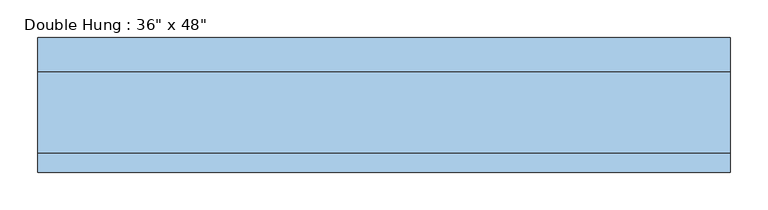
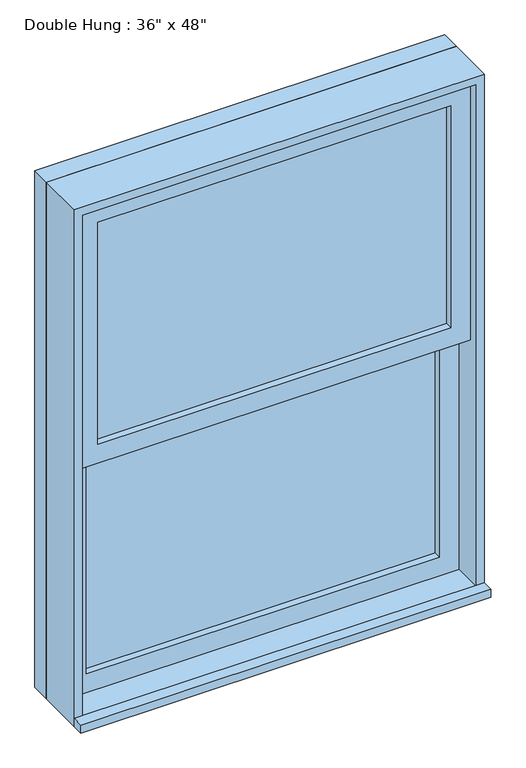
"""IFC4 building model written with IfcOpenShell, lengths in millimetres: window geometry."""

from ifc_helpers import new_model, si_unit, frame, origin, place, context, project, spatial, polyline, outline, extrude, source, transform, mapped, element, save


def window_cbc6d26e(model_context):
    return source(origin(), model_context, "Body", "SweptSolid", [
        extrude(outline(polyline([(-393.7, 3.175), (-393.7, 15.875), (393.7, 15.875), (393.7, 3.175), (-393.7, 3.175)])), frame((0.0, 0.0, 977.9), z_axis=(0.0, 0.0, 1.0), x_axis=(1.0, 0.0, 0.0)), (0.0, 0.0, 1.0), 523.875),
        extrude(outline(polyline([(1546.225, -438.15), (933.45, -438.15), (933.45, 438.15), (1546.225, 438.15), (1546.225, -438.15)]), holes=[polyline([(1501.775, -393.7), (1501.775, 393.7), (977.9, 393.7), (977.9, -393.7), (1501.775, -393.7)])]), frame((0.0, -12.7, 0.0), z_axis=(0.0, 1.0, 0.0), x_axis=(0.0, 0.0, 1.0)), (0.0, 0.0, 1.0), 44.45),
        extrude(outline(polyline([(-457.2, -101.6), (-457.2, -76.2), (457.2, -76.2), (457.2, -101.6), (-457.2, -101.6)])), frame((0.0, 0.0, 914.4), z_axis=(0.0, 0.0, 1.0), x_axis=(1.0, 0.0, 0.0)), (0.0, 0.0, 1.0), 19.05),
        extrude(outline(polyline([(393.7, -28.575), (393.7, -41.275), (-393.7, -41.275), (-393.7, -28.575), (393.7, -28.575)])), frame((0.0, 0.0, 1546.225), z_axis=(0.0, 0.0, 1.0), x_axis=(1.0, 0.0, 0.0)), (0.0, 0.0, 1.0), 523.875),
        extrude(outline(polyline([(2114.55, -438.15), (1501.775, -438.15), (1501.775, 438.15), (2114.55, 438.15), (2114.55, -438.15)]), holes=[polyline([(2070.1, -393.7), (2070.1, 393.7), (1546.225, 393.7), (1546.225, -393.7), (2070.1, -393.7)])]), frame((0.0, -57.15, 0.0), z_axis=(0.0, 1.0, 0.0), x_axis=(0.0, 0.0, 1.0)), (0.0, 0.0, 1.0), 44.45),
        extrude(outline(polyline([(2133.6, -457.2), (914.4, -457.2), (914.4, 457.2), (2133.6, 457.2), (2133.6, -457.2)]), holes=[polyline([(2101.85, -425.45), (2101.85, 425.45), (946.15, 425.45), (946.15, -425.45), (2101.85, -425.45)])]), frame((0.0, 31.75, 0.0), z_axis=(0.0, 1.0, 0.0), x_axis=(0.0, 0.0, 1.0)), (0.0, 0.0, 1.0), 44.45),
        extrude(outline(polyline([(2133.6, 457.2), (2133.6, -457.2), (914.4, -457.2), (914.4, 457.2), (2133.6, 457.2)]), holes=[polyline([(2114.55, 438.15), (933.45, 438.15), (933.45, -438.15), (2114.55, -438.15), (2114.55, 438.15)])]), frame((0.0, -76.2, 0.0), z_axis=(0.0, 1.0, 0.0), x_axis=(0.0, 0.0, 1.0)), (0.0, 0.0, 1.0), 107.95),
    ])


if __name__ == "__main__":
    model = new_model("IFC4")
    model_context = context("Model", 3, world=origin())
    ifc_project = project(units=[si_unit("LENGTHUNIT", "METRE", prefix="MILLI")], contexts=[model_context])
    site = spatial("IfcSite", under=ifc_project)
    building = spatial("IfcBuilding", under=site)
    placement = place(None, origin())
    window_shape = window_cbc6d26e(model_context)
    element("IfcWindow", 1, ObjectType="Double Hung : 36\" x 48\"", at=placement, inside=building, context=model_context, shape_type="MappedRepresentation", body=[
        mapped(window_shape, transform((0.0, 0.0, 0.0), x_axis=(1.0, 0.0, 0.0), y_axis=(0.0, 1.0, 0.0), z_axis=(0.0, 0.0, 1.0))),
    ])
    save(model, "model.ifc")
